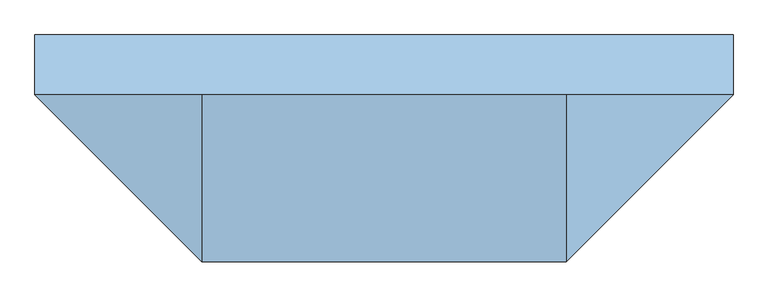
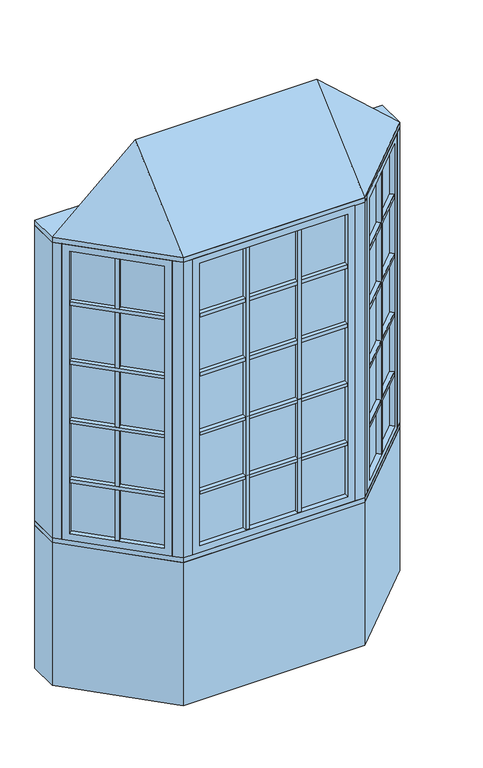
"""IFC4 building model written with IfcOpenShell, lengths in millimetres: window geometry, Pollard_Windows_Tudor Casement Bows and Bays : AML-BAY 45 AFR0516-08-500_GC."""

import ifcopenshell
import ifcopenshell.guid

model = None  # the IFC model being written
_history = None  # IfcOwnerHistory: only IFC2X3 demands one
_inside = {}  # id of a spatial element -> (the spatial element, [elements in it])
_under = {}  # id of a project, library or spatial element -> (it, [spatial elements below it])
_declared = {}  # id of a project -> (the project, [libraries it declares])
_typed = {}  # id of a type object -> (the type object, [elements of that type])
_made_of = {}  # id of a material, layer set ... -> (it, [elements and type objects made of it])


def new_model(schema):
    """Start an empty IFC model of exactly this schema.

    Asked for "IFC4X3", IfcOpenShell would pick the latest addendum, in which some entities
    have other attributes; the version numbers below select the first issue.
    IFC2X3 requires an IfcOwnerHistory on every rooted entity: one is made here for all.
    """
    global model, _history
    if schema == "IFC4X3":
        model = ifcopenshell.file(schema_version=(4, 3, 0, 0))
    else:
        model = ifcopenshell.file(schema=schema)
    _inside.clear()
    _under.clear()
    _declared.clear()
    _typed.clear()
    _made_of.clear()
    _history = None
    if model.schema == "IFC2X3":
        org = make("IfcOrganization", Name="unknown")
        user = make(
            "IfcPersonAndOrganization",
            ThePerson=make("IfcPerson", FamilyName="unknown"),
            TheOrganization=org,
        )
        app = make(
            "IfcApplication",
            ApplicationDeveloper=org,
            Version="unknown",
            ApplicationFullName="unknown",
            ApplicationIdentifier="unknown",
        )
        _history = make(
            "IfcOwnerHistory",
            OwningUser=user,
            OwningApplication=app,
            ChangeAction="ADDED",
            CreationDate=0,
        )
    return model


def make(cls, **values):
    """One entity of the class cls with the attributes given. An attribute that is None is left unset."""
    return model.create_entity(
        cls, **{name: value for name, value in values.items() if value is not None}
    )


def rooted(cls, **values):
    """An entity with a GlobalId (a new one), such as an element, a storey or a relation."""
    return make(cls, GlobalId=ifcopenshell.guid.new(), OwnerHistory=_history, **values)


def si_unit(unit_type, name, prefix=None):
    """IfcSIUnit, for example si_unit("LENGTHUNIT", "METRE", prefix="MILLI")."""
    return make("IfcSIUnit", UnitType=unit_type, Prefix=prefix, Name=name)


def assignment(units):
    """IfcUnitAssignment: the units of a project."""
    return None if units is None else make("IfcUnitAssignment", Units=units)


def point(xyz):
    """IfcCartesianPoint."""
    return None if xyz is None else make("IfcCartesianPoint", Coordinates=xyz)


def direction(xyz):
    """IfcDirection."""
    return None if xyz is None else make("IfcDirection", DirectionRatios=xyz)


def frame(location, z_axis=None, x_axis=None):
    """IfcAxis2Placement3D, a coordinate frame: its origin and axes. An axis left out is left unset."""
    return make(
        "IfcAxis2Placement3D",
        Location=point(location),
        Axis=direction(z_axis),
        RefDirection=direction(x_axis),
    )


def origin():
    """The frame at (0, 0, 0) with its axes left unset."""
    return frame((0.0, 0.0, 0.0))


def origin_with_axes():
    """The frame at (0, 0, 0) with the z axis (0, 0, 1) and the x axis (1, 0, 0) written out."""
    return frame((0.0, 0.0, 0.0), z_axis=(0.0, 0.0, 1.0), x_axis=(1.0, 0.0, 0.0))


def place(relative_to, where):
    """IfcLocalPlacement: puts the frame where relative to a parent placement (None: the world)."""
    return make(
        "IfcLocalPlacement", PlacementRelTo=relative_to, RelativePlacement=where
    )


def context(
    kind, dimensions, precision=None, world=None, true_north=None, identifier=None
):
    """IfcGeometricRepresentationContext, for example the 3D "Model" context."""
    return make(
        "IfcGeometricRepresentationContext",
        ContextIdentifier=identifier,
        ContextType=kind,
        CoordinateSpaceDimension=dimensions,
        Precision=precision,
        WorldCoordinateSystem=world,
        TrueNorth=true_north,
    )


def project(units=None, contexts=None):
    """IfcProject with its units and contexts."""
    return rooted(
        "IfcProject",
        Name="project",
        RepresentationContexts=contexts,
        UnitsInContext=assignment(units),
    )


def spatial(cls, under=None, at=None, **own):
    """A site, building, storey or space (cls), placed at a placement, below another one or the project."""
    s = rooted(cls, ObjectPlacement=at, **own)
    if under is not None:
        _under.setdefault(under.id(), (under, []))[1].append(s)
    return s


def polyline(points):
    """IfcPolyline through the points."""
    return make("IfcPolyline", Points=[point(p) for p in points])


def outline(outer, holes=None, kind="AREA"):
    """IfcArbitraryClosedProfileDef: a profile drawn as a closed curve; with holes, ...WithVoids."""
    if holes is None:
        return make("IfcArbitraryClosedProfileDef", ProfileType=kind, OuterCurve=outer)
    return make(
        "IfcArbitraryProfileDefWithVoids",
        ProfileType=kind,
        OuterCurve=outer,
        InnerCurves=holes,
    )


def extrude(swept, where, along, depth):
    """IfcExtrudedAreaSolid: the profile swept, set in the frame where, extruded along a direction by depth."""
    return make(
        "IfcExtrudedAreaSolid",
        SweptArea=swept,
        Position=where,
        ExtrudedDirection=direction(along),
        Depth=depth,
    )


def faces_of(points, faces, orient=None, outer=None):
    """IfcFace entities. A face is a list of loops; a loop is a list of indices into points, from 0.

    orient and outer hold one flag for each loop. By default every Orientation is true, the
    first loop of a face is its IfcFaceOuterBound and the others are IfcFaceBound.
    """
    made = []
    for i, loops in enumerate(faces):
        bounds = []
        for j, loop in enumerate(loops):
            is_outer = j == 0 if outer is None else outer[i][j]
            bounds.append(
                make(
                    "IfcFaceOuterBound" if is_outer else "IfcFaceBound",
                    Bound=make("IfcPolyLoop", Polygon=[points[k] for k in loop]),
                    Orientation=True if orient is None else orient[i][j],
                )
            )
        made.append(make("IfcFace", Bounds=bounds))
    return made


def faceted_brep(points, faces, orient=None, outer=None, voids=None):
    """IfcFacetedBrep: a solid bounded by flat faces; with voids (closed shells), ...WithVoids."""
    shared = [point(p) for p in points]
    hull = make("IfcClosedShell", CfsFaces=faces_of(shared, faces, orient, outer))
    if voids is None:
        return make("IfcFacetedBrep", Outer=hull)
    return make(
        "IfcFacetedBrepWithVoids",
        Outer=hull,
        Voids=[
            make(cls, CfsFaces=faces_of(shared, fs, o, b)) for cls, fs, o, b in voids
        ],
    )


def shape(context_of_items, identifier, shape_type, items):
    """IfcShapeRepresentation: the items that make up one representation, for example the "Body"."""
    return make(
        "IfcShapeRepresentation",
        ContextOfItems=context_of_items,
        RepresentationIdentifier=identifier,
        RepresentationType=shape_type,
        Items=items,
    )


def source(mapping_origin, context_of_items, identifier, shape_type, items):
    """IfcRepresentationMap: a shape defined once, which mapped items show again and again."""
    return make(
        "IfcRepresentationMap",
        MappingOrigin=mapping_origin,
        MappedRepresentation=shape(context_of_items, identifier, shape_type, items),
    )


def transform(
    local_origin,
    x_axis=None,
    y_axis=None,
    z_axis=None,
    scale=None,
    scale2=None,
    scale3=None,
    uniform=True,
):
    """IfcCartesianTransformationOperator3D, or its non-uniform kind. x_axis, y_axis, z_axis: its Axis1, 2, 3."""
    if uniform:
        return make(
            "IfcCartesianTransformationOperator3D",
            Axis1=direction(x_axis),
            Axis2=direction(y_axis),
            LocalOrigin=point(local_origin),
            Scale=scale,
            Axis3=direction(z_axis),
        )
    return make(
        "IfcCartesianTransformationOperator3DnonUniform",
        Axis1=direction(x_axis),
        Axis2=direction(y_axis),
        LocalOrigin=point(local_origin),
        Scale=scale,
        Axis3=direction(z_axis),
        Scale2=scale2,
        Scale3=scale3,
    )


def mapped(mapping_source, mapping_target):
    """IfcMappedItem: shows the shape of a source again, moved by a transform."""
    return make(
        "IfcMappedItem", MappingSource=mapping_source, MappingTarget=mapping_target
    )


def made_of(thing, what):
    """Note that an element or type object is made of a material, layer set ...; save() writes the relation."""
    if what is not None:
        _made_of.setdefault(what.id(), (what, []))[1].append(thing)
    return thing


def element(
    cls,
    number,
    at=None,
    inside=None,
    cuts=None,
    type_object=None,
    material=None,
    context=None,
    identifier="Body",
    shape_type=None,
    held_by="IfcProductDefinitionShape",
    body=None,
    shapes=None,
    **own,
):
    """One element of the class cls, such as IfcWall. Its Tag is "e" and its number.

    at: its placement. inside: the storey or other place that contains it. cuts: it is an
    opening in that element (IfcRelVoidsElement). A single representation is given by context,
    identifier, shape_type and body (its items); several are given by shapes. held_by: the class
    of the entity that holds the representations. save() writes the other relations.
    """
    e = rooted(cls, Tag="e%d" % number, ObjectPlacement=at, **own)
    if body is not None:
        shapes = [shape(context, identifier, shape_type, body)]
    if shapes is not None:
        e.Representation = make(held_by, Representations=shapes)
    if inside is not None:
        _inside.setdefault(inside.id(), (inside, []))[1].append(e)
    if cuts is not None:
        rooted(
            "IfcRelVoidsElement", RelatingBuildingElement=cuts, RelatedOpeningElement=e
        )
    if type_object is not None:
        _typed.setdefault(type_object.id(), (type_object, []))[1].append(e)
    return made_of(e, material)


def aggregate(whole, parts):
    """IfcRelAggregates: a whole, such as a stair, and the parts it consists of."""
    return rooted("IfcRelAggregates", RelatingObject=whole, RelatedObjects=parts)


def save(model, path):
    """Write the relations noted so far, then the file.

    IfcRelAggregates (storeys below a building ...), IfcRelContainedInSpatialStructure (elements
    in a storey), IfcRelDefinesByType, IfcRelAssociatesMaterial and IfcRelDeclares: one each for
    every whole, place, type object, material and project.
    """
    for whole, parts in _under.values():
        aggregate(whole, parts)
    for where, things in _inside.values():
        rooted(
            "IfcRelContainedInSpatialStructure",
            RelatedElements=things,
            RelatingStructure=where,
        )
    for kind, things in _typed.values():
        rooted("IfcRelDefinesByType", RelatedObjects=things, RelatingType=kind)
    for what, things in _made_of.values():
        rooted("IfcRelAssociatesMaterial", RelatedObjects=things, RelatingMaterial=what)
    for by, libraries in _declared.values():
        rooted("IfcRelDeclares", RelatingContext=by, RelatedDefinitions=libraries)
    model.write(path)


def window_b467f3d1(model_context):
    return source(origin(), model_context, "Body", "SolidModel", [
        extrude(outline(polyline([(522.8614193, -437.1108753), (507.3050701, -421.5545261), (815.116171, -113.7434252), (830.6725202, -129.2997743), (522.8614193, -437.1108753)])), frame((0.0, 0.0, 1110.998), z_axis=(0.0, 0.0, 1.0), x_axis=(1.0, 0.0, 0.0)), (0.0, 0.0, 1.0), 18.0),
        extrude(outline(polyline([(503.7129677, -417.9624236), (488.1566185, -402.4060744), (795.9677194, -94.5949735), (811.5240686, -110.1513227), (503.7129677, -417.9624236)])), frame((0.0, 0.0, 1110.998), z_axis=(0.0, 0.0, 1.0), x_axis=(1.0, 0.0, 0.0)), (0.0, 0.0, 1.0), 18.0),
        extrude(outline(polyline([(522.8614193, -437.1108753), (507.3050701, -421.5545261), (815.116171, -113.7434252), (830.6725202, -129.2997743), (522.8614193, -437.1108753)])), frame((0.0, 0.0, 1430.998), z_axis=(0.0, 0.0, 1.0), x_axis=(1.0, 0.0, 0.0)), (0.0, 0.0, 1.0), 18.0),
        extrude(outline(polyline([(503.7129677, -417.9624236), (488.1566185, -402.4060744), (795.9677194, -94.5949735), (811.5240686, -110.1513227), (503.7129677, -417.9624236)])), frame((0.0, 0.0, 1430.998), z_axis=(0.0, 0.0, 1.0), x_axis=(1.0, 0.0, 0.0)), (0.0, 0.0, 1.0), 18.0),
        extrude(outline(polyline([(522.8614193, -437.1108753), (507.3050701, -421.5545261), (815.116171, -113.7434252), (830.6725202, -129.2997743), (522.8614193, -437.1108753)])), frame((0.0, 0.0, 1750.998), z_axis=(0.0, 0.0, 1.0), x_axis=(1.0, 0.0, 0.0)), (0.0, 0.0, 1.0), 18.0),
        extrude(outline(polyline([(503.7129677, -417.9624236), (488.1566185, -402.4060744), (795.9677194, -94.5949735), (811.5240686, -110.1513227), (503.7129677, -417.9624236)])), frame((0.0, 0.0, 1750.998), z_axis=(0.0, 0.0, 1.0), x_axis=(1.0, 0.0, 0.0)), (0.0, 0.0, 1.0), 18.0),
        extrude(outline(polyline([(522.8614193, -437.1108753), (507.3050701, -421.5545261), (815.116171, -113.7434252), (830.6725202, -129.2997743), (522.8614193, -437.1108753)])), frame((0.0, 0.0, 2070.998), z_axis=(0.0, 0.0, 1.0), x_axis=(1.0, 0.0, 0.0)), (0.0, 0.0, 1.0), 18.0),
        extrude(outline(polyline([(503.7129677, -417.9624236), (488.1566185, -402.4060744), (795.9677194, -94.5949735), (811.5240686, -110.1513227), (503.7129677, -417.9624236)])), frame((0.0, 0.0, 2070.998), z_axis=(0.0, 0.0, 1.0), x_axis=(1.0, 0.0, 0.0)), (0.0, 0.0, 1.0), 18.0),
        extrude(outline(polyline([(667.5745816, -261.2850146), (683.1309308, -276.8413638), (670.4030087, -289.5692858), (654.8466595, -274.0129366), (667.5745816, -261.2850146)])), frame((0.0, 0.0, 835.8628), z_axis=(0.0, 0.0, 1.0), x_axis=(1.0, 0.0, 0.0)), (0.0, 0.0, 1.0), 1528.2704),
        extrude(outline(polyline([(663.9824791, -257.6929121), (651.2545571, -270.4208342), (635.6982079, -254.864485), (648.42613, -242.1365629), (663.9824791, -257.6929121)])), frame((0.0, 0.0, 835.8628), z_axis=(0.0, 0.0, 1.0), x_axis=(1.0, 0.0, 0.0)), (0.0, 0.0, 1.0), 1528.2704),
        extrude(outline(polyline([(824.0964271, -104.763169), (498.324814, -430.5347822), (494.7327115, -426.9426797), (820.5043247, -101.1710666), (824.0964271, -104.763169)])), frame((0.0, 0.0, 823.1628), z_axis=(0.0, 0.0, 1.0), x_axis=(1.0, 0.0, 0.0)), (0.0, 0.0, 1.0), 1553.6704),
        faceted_brep([(815.116171, -113.7434252, 835.8628), (833.0766833, -131.7039374, 835.8628), (833.0766833, -131.7039374, 2364.1332), (815.116171, -113.7434252, 2364.1332), (820.5043247, -101.1710666, 823.1628), (824.0964271, -104.763169, 823.1628), (824.0964271, -104.763169, 2376.8332), (820.5043247, -101.1710666, 2376.8332), (793.5635563, -92.1908105, 835.8628), (811.5240686, -110.1513227, 835.8628), (811.5240686, -110.1513227, 2364.1332), (793.5635563, -92.1908105, 2364.1332), (858.4369265, -106.3436941, 799.998), (818.9237996, -66.8305672, 799.998), (818.9237996, -66.8305672, 2399.998), (858.4369265, -106.3436941, 2399.998), (525.2655823, -439.5150383, 2364.1332), (507.3050701, -421.5545261, 2364.1332), (498.324814, -430.5347822, 2376.8332), (494.7327115, -426.9426797, 2376.8332), (503.7129677, -417.9624236, 2364.1332), (485.7524554, -400.0019114, 2364.1332), (460.3922121, -425.3621547, 2399.998), (499.9053391, -464.8752816, 2399.998), (525.2655823, -439.5150383, 835.8628), (507.3050701, -421.5545261, 835.8628), (498.324814, -430.5347822, 823.1628), (494.7327115, -426.9426797, 823.1628), (503.7129677, -417.9624236, 835.8628), (485.7524554, -400.0019114, 835.8628), (460.3922121, -425.3621547, 799.998), (499.9053391, -464.8752816, 799.998)], [[[0, 1, 2, 3]], [[4, 5, 6, 7]], [[8, 9, 10, 11]], [[12, 13, 14, 15]], [[3, 2, 16, 17]], [[7, 6, 18, 19]], [[11, 10, 20, 21]], [[15, 14, 22, 23]], [[17, 16, 24, 25]], [[19, 18, 26, 27]], [[21, 20, 28, 29]], [[23, 22, 30, 31]], [[25, 24, 1, 0]], [[5, 26, 18, 6], [3, 17, 25, 0]], [[27, 26, 5, 4]], [[7, 19, 27, 4], [9, 28, 20, 10]], [[29, 28, 9, 8]], [[13, 30, 22, 14], [11, 21, 29, 8]], [[31, 30, 13, 12]], [[15, 23, 31, 12], [1, 24, 16, 2]]]),
        extrude(outline(polyline([(142.4618667, -474.8306207), (142.4618667, -496.8306207), (124.4618667, -496.8306207), (124.4618667, -474.8306207), (142.4618667, -474.8306207)])), frame((0.0, 0.0, 835.8628), z_axis=(0.0, 0.0, 1.0), x_axis=(1.0, 0.0, 0.0)), (0.0, 0.0, 1.0), 1528.2704),
        extrude(outline(polyline([(142.4618667, -469.7506207), (124.4618667, -469.7506207), (124.4618667, -447.7506207), (142.4618667, -447.7506207), (142.4618667, -469.7506207)])), frame((0.0, 0.0, 835.8628), z_axis=(0.0, 0.0, 1.0), x_axis=(1.0, 0.0, 0.0)), (0.0, 0.0, 1.0), 1528.2704),
        extrude(outline(polyline([(-124.4618667, -474.8306207), (-124.4618667, -496.8306207), (-142.4618667, -496.8306207), (-142.4618667, -474.8306207), (-124.4618667, -474.8306207)])), frame((0.0, 0.0, 835.8628), z_axis=(0.0, 0.0, 1.0), x_axis=(1.0, 0.0, 0.0)), (0.0, 0.0, 1.0), 1528.2704),
        extrude(outline(polyline([(-124.4618667, -469.7506207), (-142.4618667, -469.7506207), (-142.4618667, -447.7506207), (-124.4618667, -447.7506207), (-124.4618667, -469.7506207)])), frame((0.0, 0.0, 835.8628), z_axis=(0.0, 0.0, 1.0), x_axis=(1.0, 0.0, 0.0)), (0.0, 0.0, 1.0), 1528.2704),
        extrude(outline(polyline([(-378.6852, -496.8306207), (-378.6852, -474.8306207), (378.6852, -474.8306207), (378.6852, -496.8306207), (-378.6852, -496.8306207)])), frame((0.0, 0.0, 1110.998), z_axis=(0.0, 0.0, 1.0), x_axis=(1.0, 0.0, 0.0)), (0.0, 0.0, 1.0), 18.0),
        extrude(outline(polyline([(-378.6852, -469.7506207), (-378.6852, -447.7506207), (378.6852, -447.7506207), (378.6852, -469.7506207), (-378.6852, -469.7506207)])), frame((0.0, 0.0, 1110.998), z_axis=(0.0, 0.0, 1.0), x_axis=(1.0, 0.0, 0.0)), (0.0, 0.0, 1.0), 18.0),
        extrude(outline(polyline([(-378.6852, -496.8306207), (-378.6852, -474.8306207), (378.6852, -474.8306207), (378.6852, -496.8306207), (-378.6852, -496.8306207)])), frame((0.0, 0.0, 1430.998), z_axis=(0.0, 0.0, 1.0), x_axis=(1.0, 0.0, 0.0)), (0.0, 0.0, 1.0), 18.0),
        extrude(outline(polyline([(-378.6852, -469.7506207), (-378.6852, -447.7506207), (378.6852, -447.7506207), (378.6852, -469.7506207), (-378.6852, -469.7506207)])), frame((0.0, 0.0, 1430.998), z_axis=(0.0, 0.0, 1.0), x_axis=(1.0, 0.0, 0.0)), (0.0, 0.0, 1.0), 18.0),
        extrude(outline(polyline([(-378.6852, -496.8306207), (-378.6852, -474.8306207), (378.6852, -474.8306207), (378.6852, -496.8306207), (-378.6852, -496.8306207)])), frame((0.0, 0.0, 1750.998), z_axis=(0.0, 0.0, 1.0), x_axis=(1.0, 0.0, 0.0)), (0.0, 0.0, 1.0), 18.0),
        extrude(outline(polyline([(-378.6852, -469.7506207), (-378.6852, -447.7506207), (378.6852, -447.7506207), (378.6852, -469.7506207), (-378.6852, -469.7506207)])), frame((0.0, 0.0, 1750.998), z_axis=(0.0, 0.0, 1.0), x_axis=(1.0, 0.0, 0.0)), (0.0, 0.0, 1.0), 18.0),
        extrude(outline(polyline([(-830.6725202, -129.2997743), (-815.116171, -113.7434252), (-507.3050701, -421.5545261), (-522.8614193, -437.1108753), (-830.6725202, -129.2997743)])), frame((0.0, 0.0, 1110.998), z_axis=(0.0, 0.0, 1.0), x_axis=(1.0, 0.0, 0.0)), (0.0, 0.0, 1.0), 18.0),
        extrude(outline(polyline([(-811.5240686, -110.1513227), (-795.9677194, -94.5949735), (-488.1566185, -402.4060744), (-503.7129677, -417.9624236), (-811.5240686, -110.1513227)])), frame((0.0, 0.0, 1110.998), z_axis=(0.0, 0.0, 1.0), x_axis=(1.0, 0.0, 0.0)), (0.0, 0.0, 1.0), 18.0),
        extrude(outline(polyline([(-830.6725202, -129.2997743), (-815.116171, -113.7434252), (-507.3050701, -421.5545261), (-522.8614193, -437.1108753), (-830.6725202, -129.2997743)])), frame((0.0, 0.0, 1430.998), z_axis=(0.0, 0.0, 1.0), x_axis=(1.0, 0.0, 0.0)), (0.0, 0.0, 1.0), 18.0),
        extrude(outline(polyline([(-811.5240686, -110.1513227), (-795.9677194, -94.5949735), (-488.1566185, -402.4060744), (-503.7129677, -417.9624236), (-811.5240686, -110.1513227)])), frame((0.0, 0.0, 1430.998), z_axis=(0.0, 0.0, 1.0), x_axis=(1.0, 0.0, 0.0)), (0.0, 0.0, 1.0), 18.0),
        extrude(outline(polyline([(-830.6725202, -129.2997743), (-815.116171, -113.7434252), (-507.3050701, -421.5545261), (-522.8614193, -437.1108753), (-830.6725202, -129.2997743)])), frame((0.0, 0.0, 1750.998), z_axis=(0.0, 0.0, 1.0), x_axis=(1.0, 0.0, 0.0)), (0.0, 0.0, 1.0), 18.0),
        extrude(outline(polyline([(-811.5240686, -110.1513227), (-795.9677194, -94.5949735), (-488.1566185, -402.4060744), (-503.7129677, -417.9624236), (-811.5240686, -110.1513227)])), frame((0.0, 0.0, 1750.998), z_axis=(0.0, 0.0, 1.0), x_axis=(1.0, 0.0, 0.0)), (0.0, 0.0, 1.0), 18.0),
        extrude(outline(polyline([(-830.6725202, -129.2997743), (-815.116171, -113.7434252), (-507.3050701, -421.5545261), (-522.8614193, -437.1108753), (-830.6725202, -129.2997743)])), frame((0.0, 0.0, 2070.998), z_axis=(0.0, 0.0, 1.0), x_axis=(1.0, 0.0, 0.0)), (0.0, 0.0, 1.0), 18.0),
        extrude(outline(polyline([(-811.5240686, -110.1513227), (-795.9677194, -94.5949735), (-488.1566185, -402.4060744), (-503.7129677, -417.9624236), (-811.5240686, -110.1513227)])), frame((0.0, 0.0, 2070.998), z_axis=(0.0, 0.0, 1.0), x_axis=(1.0, 0.0, 0.0)), (0.0, 0.0, 1.0), 18.0),
        extrude(outline(polyline([(-378.6852, -496.8306207), (-378.6852, -474.8306207), (378.6852, -474.8306207), (378.6852, -496.8306207), (-378.6852, -496.8306207)])), frame((0.0, 0.0, 2070.998), z_axis=(0.0, 0.0, 1.0), x_axis=(1.0, 0.0, 0.0)), (0.0, 0.0, 1.0), 18.0),
        extrude(outline(polyline([(-378.6852, -469.7506207), (-378.6852, -447.7506207), (378.6852, -447.7506207), (378.6852, -469.7506207), (-378.6852, -469.7506207)])), frame((0.0, 0.0, 2070.998), z_axis=(0.0, 0.0, 1.0), x_axis=(1.0, 0.0, 0.0)), (0.0, 0.0, 1.0), 18.0),
        extrude(outline(polyline([(-654.8466595, -274.0129366), (-670.4030087, -289.5692858), (-683.1309308, -276.8413638), (-667.5745816, -261.2850146), (-654.8466595, -274.0129366)])), frame((0.0, 0.0, 835.8628), z_axis=(0.0, 0.0, 1.0), x_axis=(1.0, 0.0, 0.0)), (0.0, 0.0, 1.0), 1528.2704),
        extrude(outline(polyline([(-651.2545571, -270.4208342), (-663.9824791, -257.6929121), (-648.42613, -242.1365629), (-635.6982079, -254.864485), (-651.2545571, -270.4208342)])), frame((0.0, 0.0, 835.8628), z_axis=(0.0, 0.0, 1.0), x_axis=(1.0, 0.0, 0.0)), (0.0, 0.0, 1.0), 1528.2704),
        extrude(outline(polyline([(-498.324814, -430.5347822), (-824.0964271, -104.763169), (-820.5043247, -101.1710666), (-494.7327115, -426.9426797), (-498.324814, -430.5347822)])), frame((0.0, 0.0, 823.1628), z_axis=(0.0, 0.0, 1.0), x_axis=(1.0, 0.0, 0.0)), (0.0, 0.0, 1.0), 1553.6704),
        faceted_brep([(-503.7129677, -417.9624236, 2364.1332), (-485.7524554, -400.0019114, 2364.1332), (-485.7524554, -400.0019114, 835.8628), (-503.7129677, -417.9624236, 835.8628), (-498.324814, -430.5347822, 2376.8332), (-494.7327115, -426.9426797, 2376.8332), (-494.7327115, -426.9426797, 823.1628), (-498.324814, -430.5347822, 823.1628), (-525.2655823, -439.5150383, 2364.1332), (-507.3050701, -421.5545261, 2364.1332), (-507.3050701, -421.5545261, 835.8628), (-525.2655823, -439.5150383, 835.8628), (-460.3922121, -425.3621547, 2399.998), (-499.9053391, -464.8752816, 2399.998), (-499.9053391, -464.8752816, 799.998), (-460.3922121, -425.3621547, 799.998), (-793.5635563, -92.1908105, 835.8628), (-811.5240686, -110.1513227, 835.8628), (-820.5043247, -101.1710666, 823.1628), (-824.0964271, -104.763169, 823.1628), (-815.116171, -113.7434252, 835.8628), (-833.0766833, -131.7039374, 835.8628), (-858.4369265, -106.3436941, 799.998), (-818.9237996, -66.8305672, 799.998), (-793.5635563, -92.1908105, 2364.1332), (-811.5240686, -110.1513227, 2364.1332), (-820.5043247, -101.1710666, 2376.8332), (-824.0964271, -104.763169, 2376.8332), (-815.116171, -113.7434252, 2364.1332), (-833.0766833, -131.7039374, 2364.1332), (-858.4369265, -106.3436941, 2399.998), (-818.9237996, -66.8305672, 2399.998)], [[[0, 1, 2, 3]], [[4, 5, 6, 7]], [[8, 9, 10, 11]], [[12, 13, 14, 15]], [[3, 2, 16, 17]], [[7, 6, 18, 19]], [[11, 10, 20, 21]], [[15, 14, 22, 23]], [[17, 16, 24, 25]], [[19, 18, 26, 27]], [[21, 20, 28, 29]], [[23, 22, 30, 31]], [[15, 23, 31, 12], [1, 24, 16, 2]], [[25, 24, 1, 0]], [[5, 26, 18, 6], [3, 17, 25, 0]], [[27, 26, 5, 4]], [[7, 19, 27, 4], [9, 28, 20, 10]], [[29, 28, 9, 8]], [[13, 30, 22, 14], [11, 21, 29, 8]], [[31, 30, 13, 12]]]),
        extrude(outline(polyline([(391.3852, -474.8306207), (-391.3852, -474.8306207), (-391.3852, -469.7506207), (391.3852, -469.7506207), (391.3852, -474.8306207)])), frame((0.0, 0.0, 823.1628), z_axis=(0.0, 0.0, 1.0), x_axis=(1.0, 0.0, 0.0)), (0.0, 0.0, 1.0), 1553.6704),
        faceted_brep([(378.6852, -474.8306207, 835.8628), (378.6852, -500.2306207, 835.8628), (378.6852, -500.2306207, 2364.1332), (378.6852, -474.8306207, 2364.1332), (391.3852, -469.7506207, 823.1628), (391.3852, -474.8306207, 823.1628), (391.3852, -474.8306207, 2376.8332), (391.3852, -469.7506207, 2376.8332), (378.6852, -444.3506207, 835.8628), (378.6852, -469.7506207, 835.8628), (378.6852, -469.7506207, 2364.1332), (378.6852, -444.3506207, 2364.1332), (414.55, -500.2306207, 799.998), (414.55, -444.3506207, 799.998), (414.55, -444.3506207, 2399.998), (414.55, -500.2306207, 2399.998), (-378.6852, -500.2306207, 2364.1332), (-378.6852, -474.8306207, 2364.1332), (-391.3852, -474.8306207, 2376.8332), (-391.3852, -469.7506207, 2376.8332), (-378.6852, -469.7506207, 2364.1332), (-378.6852, -444.3506207, 2364.1332), (-414.55, -444.3506207, 2399.998), (-414.55, -500.2306207, 2399.998), (-378.6852, -500.2306207, 835.8628), (-378.6852, -474.8306207, 835.8628), (-391.3852, -474.8306207, 823.1628), (-391.3852, -469.7506207, 823.1628), (-378.6852, -469.7506207, 835.8628), (-378.6852, -444.3506207, 835.8628), (-414.55, -444.3506207, 799.998), (-414.55, -500.2306207, 799.998)], [[[0, 1, 2, 3]], [[4, 5, 6, 7]], [[8, 9, 10, 11]], [[12, 13, 14, 15]], [[3, 2, 16, 17]], [[7, 6, 18, 19]], [[11, 10, 20, 21]], [[15, 14, 22, 23]], [[17, 16, 24, 25]], [[19, 18, 26, 27]], [[21, 20, 28, 29]], [[23, 22, 30, 31]], [[15, 23, 31, 12], [1, 24, 16, 2]], [[25, 24, 1, 0]], [[5, 26, 18, 6], [3, 17, 25, 0]], [[27, 26, 5, 4]], [[7, 19, 27, 4], [9, 28, 20, 10]], [[29, 28, 9, 8]], [[13, 30, 22, 14], [11, 21, 29, 8]], [[31, 30, 13, 12]]]),
        faceted_brep([(890.0, -74.7806207, 2425.398), (464.55, -500.2306207, 2425.398), (-464.55, -500.2306207, 2425.398), (-890.0, -74.7806207, 2425.398), (-464.55, -74.7806207, 2806.398), (464.55, -74.7806207, 2806.398)], [[[0, 1, 2, 3]], [[3, 2, 4]], [[2, 1, 5, 4]], [[1, 0, 5]], [[0, 3, 4, 5]]]),
        extrude(outline(polyline([(-890.0, 77.6193793), (890.0, 77.6193793), (890.0, -74.7806207), (464.55, -500.2306207), (-464.55, -500.2306207), (-890.0, -74.7806207), (-890.0, 77.6193793)])), frame((0.0, 0.0, 2399.998), z_axis=(0.0, 0.0, 1.0), x_axis=(1.0, 0.0, 0.0)), (0.0, 0.0, 1.0), 25.4),
        extrude(outline(polyline([(-890.0, -74.7806207), (-890.0, 77.6193793), (-826.8738531, 77.6193793), (-826.8738531, -74.7806207), (-858.4369265, -106.3436941), (-890.0, -74.7806207)])), frame((0.0, 0.0, 799.998), z_axis=(0.0, 0.0, 1.0), x_axis=(1.0, 0.0, 0.0)), (0.0, 0.0, 1.0), 1600.0),
        extrude(outline(polyline([(890.0, 77.6193793), (890.0, -74.7806207), (858.4369265, -106.3436941), (826.8738531, -74.7806207), (826.8738531, 77.6193793), (890.0, 77.6193793)])), frame((0.0, 0.0, 799.998), z_axis=(0.0, 0.0, 1.0), x_axis=(1.0, 0.0, 0.0)), (0.0, 0.0, 1.0), 1600.0),
        extrude(outline(polyline([(464.55, -500.2306207), (414.55, -500.2306207), (414.55, -450.2306207), (443.8393219, -450.2306207), (464.55, -429.5199425), (499.9053391, -464.8752816), (464.55, -500.2306207)])), frame((0.0, 0.0, 799.998), z_axis=(0.0, 0.0, 1.0), x_axis=(1.0, 0.0, 0.0)), (0.0, 0.0, 1.0), 1600.0),
        extrude(outline(polyline([(-464.55, -500.2306207), (-499.9053391, -464.8752816), (-464.55, -429.5199425), (-443.8393219, -450.2306207), (-414.55, -450.2306207), (-414.55, -500.2306207), (-464.55, -500.2306207)])), frame((0.0, 0.0, 799.998), z_axis=(0.0, 0.0, 1.0), x_axis=(1.0, 0.0, 0.0)), (0.0, 0.0, 1.0), 1600.0),
        extrude(outline(polyline([(-464.55, -500.2306207), (-890.0, -74.7806207), (-890.0, 77.6193793), (-826.8738531, 77.6193793), (-401.4238531, -347.8306207), (401.4238531, -347.8306207), (826.8738531, 77.6193793), (890.0, 77.6193793), (890.0, -74.7806207), (464.55, -500.2306207), (-464.55, -500.2306207)])), frame((0.0, 0.0, 774.598), z_axis=(0.0, 0.0, 1.0), x_axis=(1.0, 0.0, 0.0)), (0.0, 0.0, 1.0), 25.4),
        extrude(outline(polyline([(-890.0, -74.7806207), (-890.0, 77.6193793), (-826.8738531, 77.6193793), (-401.4238531, -347.8306207), (401.4238531, -347.8306207), (826.8738531, 77.6193793), (890.0, 77.6193793), (890.0, -74.7806207), (464.55, -500.2306207), (-464.55, -500.2306207), (-890.0, -74.7806207)])), origin_with_axes(), (0.0, 0.0, 1.0), 774.598),
    ])


if __name__ == "__main__":
    model = new_model("IFC4")
    model_context = context("Model", 3, world=origin())
    ifc_project = project(units=[si_unit("LENGTHUNIT", "METRE", prefix="MILLI")], contexts=[model_context])
    site = spatial("IfcSite", under=ifc_project)
    building = spatial("IfcBuilding", under=site)
    placement = place(None, origin())
    window_shape = window_b467f3d1(model_context)
    element("IfcWindow", 1, ObjectType="Pollard_Windows_Tudor Casement Bows and Bays : AML-BAY 45 AFR0516-08-500_GC", at=placement, inside=building, context=model_context, shape_type="MappedRepresentation", body=[
        mapped(window_shape, transform((0.0, 0.0, 0.0), x_axis=(1.0, 0.0, 0.0), y_axis=(0.0, 1.0, 0.0), z_axis=(0.0, 0.0, 1.0))),
    ])
    save(model, "model.ifc")
